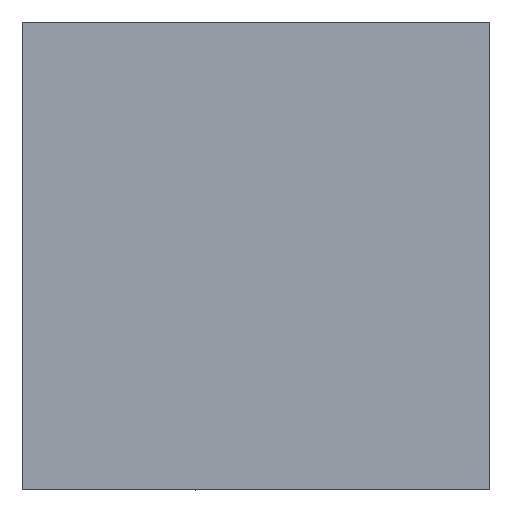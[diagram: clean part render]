
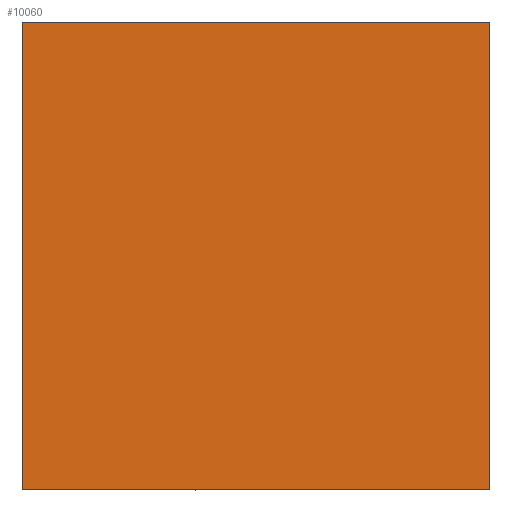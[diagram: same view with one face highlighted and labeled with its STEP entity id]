
A CAD part, left-side view. The second image highlights one B-rep face of the part: STEP entity #10060.
In plain terms, the highlighted planar face has unit normal (-1, 0, 0).
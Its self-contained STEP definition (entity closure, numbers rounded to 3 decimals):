
#267 = VECTOR ( 'NONE', #18052, 1000. ) ;
#321 = DIRECTION ( 'NONE',  ( 0., 1., 0. ) ) ;
#952 = LINE ( 'NONE', #6799, #11349 ) ;
#2548 = ORIENTED_EDGE ( 'NONE', *, *, #11248, .F. ) ;
#2862 = CARTESIAN_POINT ( 'NONE',  ( -30., 0., 10. ) ) ;
#2887 = EDGE_CURVE ( 'NONE', #17886, #8351, #18148, .T. ) ;
#3054 = CARTESIAN_POINT ( 'NONE',  ( -30., 0., 10. ) ) ;
#3126 = EDGE_CURVE ( 'NONE', #8288, #8351, #952, .T. ) ;
#3666 = AXIS2_PLACEMENT_3D ( 'NONE', #13363, #11850, #14530 ) ;
#4219 = ORIENTED_EDGE ( 'NONE', *, *, #3126, .F. ) ;
#4906 = VECTOR ( 'NONE', #321, 1000. ) ;
#5052 = CARTESIAN_POINT ( 'NONE',  ( -30., 20., 10. ) ) ;
#5205 = VECTOR ( 'NONE', #11907, 1000. ) ;
#6799 = CARTESIAN_POINT ( 'NONE',  ( -30., 20., -10. ) ) ;
#7956 = DIRECTION ( 'NONE',  ( 0., 1., 0. ) ) ;
#8018 = ORIENTED_EDGE ( 'NONE', *, *, #2887, .T. ) ;
#8288 = VERTEX_POINT ( 'NONE', #11802 ) ;
#8351 = VERTEX_POINT ( 'NONE', #8742 ) ;
#8653 = FACE_OUTER_BOUND ( 'NONE', #8926, .T. ) ;
#8742 = CARTESIAN_POINT ( 'NONE',  ( -30., 20., -10. ) ) ;
#8926 = EDGE_LOOP ( 'NONE', ( #4219, #2548, #17146, #8018 ) ) ;
#10060 = ADVANCED_FACE ( 'NONE', ( #8653 ), #12978, .F. ) ;
#11166 = VERTEX_POINT ( 'NONE', #3054 ) ;
#11248 = EDGE_CURVE ( 'NONE', #11166, #8288, #13237, .T. ) ;
#11349 = VECTOR ( 'NONE', #7956, 1000. ) ;
#11802 = CARTESIAN_POINT ( 'NONE',  ( -30., 0., -10. ) ) ;
#11850 = DIRECTION ( 'NONE',  ( 1., 0., 0. ) ) ;
#11907 = DIRECTION ( 'NONE',  ( 0., 0., -1. ) ) ;
#12058 = CARTESIAN_POINT ( 'NONE',  ( -30., 20., 10. ) ) ;
#12345 = CARTESIAN_POINT ( 'NONE',  ( -30., 20., 10. ) ) ;
#12978 = PLANE ( 'NONE',  #3666 ) ;
#13237 = LINE ( 'NONE', #2862, #5205 ) ;
#13363 = CARTESIAN_POINT ( 'NONE',  ( -30., 20., 10. ) ) ;
#13930 = EDGE_CURVE ( 'NONE', #11166, #17886, #16515, .T. ) ;
#14530 = DIRECTION ( 'NONE',  ( 0., -1., 0. ) ) ;
#16515 = LINE ( 'NONE', #12058, #4906 ) ;
#17146 = ORIENTED_EDGE ( 'NONE', *, *, #13930, .T. ) ;
#17886 = VERTEX_POINT ( 'NONE', #12345 ) ;
#18052 = DIRECTION ( 'NONE',  ( 0., 0., -1. ) ) ;
#18148 = LINE ( 'NONE', #5052, #267 ) ;
